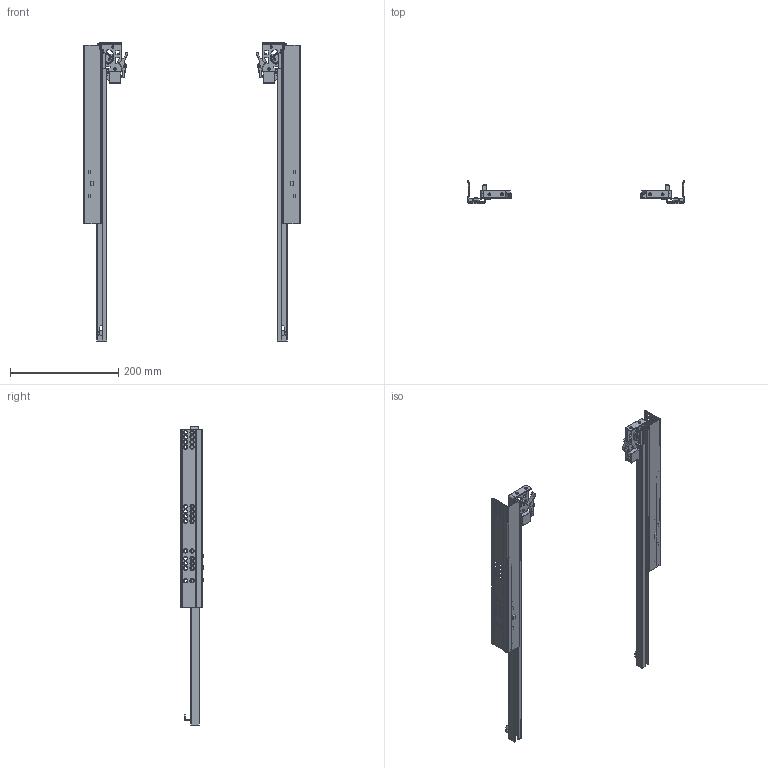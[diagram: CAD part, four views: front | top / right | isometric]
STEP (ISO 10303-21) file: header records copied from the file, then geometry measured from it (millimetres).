
FILE_DESCRIPTION(/* description */ (''),/* implementation_level */ '2;1');
FILE_NAME(/* name */ 'D:\$Workingspace\Designs\Katalog\Cadsoft\GTV Prowadnice\PB-GCHX-...-H_18\PB-GCHX18-550-H.stp',/* time_stamp */ '2021-08-30T09:40:46+02:00',/* author */ ('tomaszw'),/* organization */ (''),/* preprocessor_version */ 'ST-DEVELOPER v18.1',/* originating_system */ 'Autodesk Inventor 2021',/* authorisation */ '');
FILE_SCHEMA (('AUTOMOTIVE_DESIGN { 1 0 10303 214 3 1 1 }'));
Length unit declared in the file: millimetre
Products named in the file (7): PB-GCHX-550_H18; PB-GCHX-CL-550_H18; PB-GCHX-CR-550_H18; PB-GCHX-DL-550_H; PB-GCHX-DR-550_H; PB-GCHX-SL; PB-GCHX-SR
Assembly tree (6 placements, depth 2):
  PB-GCHX-550_H18
    PB-GCHX-CL-550_H18
    PB-GCHX-CR-550_H18
    PB-GCHX-DL-550_H
    PB-GCHX-DR-550_H
    PB-GCHX-SL
    PB-GCHX-SR
Bounding box: 400 x 43.8 x 550.5 mm (x, y, z)
Volume: 252587.7 mm3; surface area: 276331.1 mm2
Topology: 16 solids, 16 shells, 1230 faces, 2918 edges, 1722 vertices
Faces by surface type: cylinder 466, plane 338, torus 222, sphere 82, bspline 70, cone 52
Full cylindrical faces by diameter (mm): 2 x2, 3 x2, 4 x6, 4.5 x6, 5 x2, 6 x52, 7.889 x2, 9 x2
Entity records: 45442 total; most frequent: CARTESIAN_POINT 15005, DIRECTION 6482, ORIENTED_EDGE 5840, EDGE_CURVE 2920, AXIS2_PLACEMENT_3D 2547, VERTEX_POINT 1726, EDGE_LOOP 1394, LINE 1388
